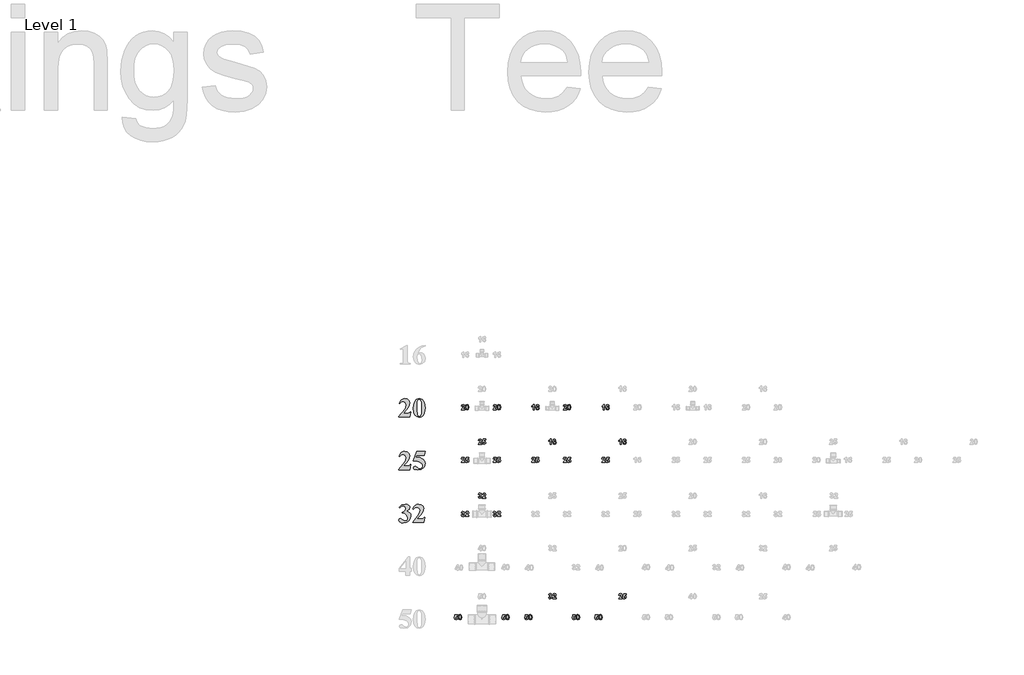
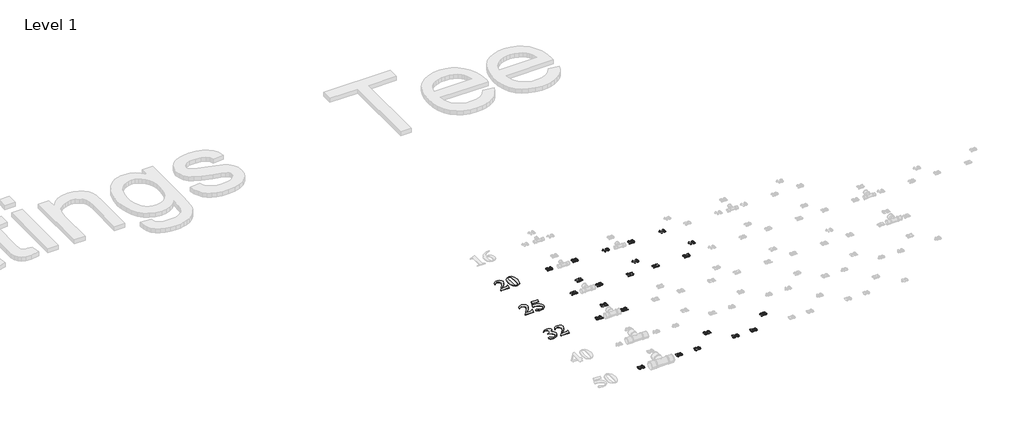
# One storey, part 27 of 57: 26 proxies.
"""IFC4 building model written with IfcOpenShell, lengths in millimetres."""

from ifc_helpers import new_model, si_unit, frame, origin, place, context, project, spatial, polyline, outline, extrude, element, save

model = new_model("IFC4")

# Units and contexts
model_context = context("Model", 3, world=origin())
ifc_project = project(units=[si_unit("LENGTHUNIT", "METRE", prefix="MILLI")], contexts=[model_context])

# Site, building, storey
site = spatial("IfcSite", under=ifc_project)
building = spatial("IfcBuilding", under=site)
storey = spatial("IfcBuildingStorey", under=building, Name="Level 1", Elevation=27.3876384)

# Proxies
placement = place(None, origin())
element("IfcBuildingElementProxy", 1, Name="100mm Arial", ObjectType="100mm Arial", at=placement, inside=storey, context=model_context, shape_type="SweptSolid", body=[
    extrude(outline(polyline([(12761.8109742, 29845.7038824), (12699.9478842, 29845.7038824), (12699.9478842, 29847.4488087), (12735.7188732, 29892.0534871), (12741.8261152, 29914.4376196), (12736.6049686, 29927.6745214), (12723.8588273, 29932.950197), (12712.8712446, 29930.0192661), (12704.6646381, 29921.2264735), (12701.8563973, 29922.235259), (12707.1150326, 29934.73602), (12714.5480097, 29943.5015482), (12723.725913, 29948.674982), (12734.2193272, 29950.3994599), (12748.7512914, 29946.8141817), (12759.0436301, 29936.9989713), (12762.7652307, 29925.3161445), (12757.2578071, 29905.1676987), (12745.2546227, 29888.6249795), (12724.3495878, 29866.6429979), (12746.3247533, 29866.6429979), (12756.8624723, 29867.2428163), (12760.8703498, 29869.2876518), (12765.0009175, 29875.3676294), (12768.0000096, 29875.3676294), (12761.8109742, 29845.7038824)])), frame((0.0, 0.0, 27.3876384), z_axis=(0.0, 0.0, 1.0), x_axis=(1.0, 0.0, 0.0)), (0.0, 0.0, 1.0), 2.0),
    extrude(outline(polyline([(12850.0115453, 29897.179208), (12845.5674362, 29868.60604), (12838.4514086, 29855.2737126), (12828.3090246, 29847.0125771), (12815.9582182, 29843.9589561), (12802.1760269, 29847.7214535), (12791.2838698, 29858.5181849), (12785.3129502, 29872.1504215), (12781.9594199, 29895.9795712), (12786.7852317, 29926.5703103), (12791.7746303, 29936.7569991), (12798.8361289, 29944.2513212), (12815.9582182, 29950.3994599), (12833.0939396, 29944.3331146), (12844.8040309, 29928.0153274), (12850.0115453, 29897.179208)]), holes=[polyline([(12827.3275035, 29897.179208), (12826.9730654, 29928.5333524), (12822.8561299, 29942.7381429), (12815.9036892, 29945.1646811), (12810.0690919, 29943.3379614), (12805.7613051, 29934.0135115), (12804.6434617, 29887.3639976), (12806.3611236, 29858.1910112), (12810.0554597, 29851.0068225), (12816.4217142, 29849.193735), (12822.8561299, 29851.6202731), (12826.9730654, 29864.6799559), (12827.3275035, 29897.179208)])]), frame((0.0, 0.0, 27.3876384), z_axis=(0.0, 0.0, 1.0), x_axis=(1.0, 0.0, 0.0)), (0.0, 0.0, 1.0), 2.0),
])
element("IfcBuildingElementProxy", 2, Name="100mm Arial", ObjectType="100mm Arial", at=placement, inside=storey, context=model_context, shape_type="SweptSolid", body=[
    extrude(outline(polyline([(12761.8109742, 29545.7013539), (12699.9478842, 29545.7013539), (12699.9478842, 29547.4462802), (12735.7188732, 29592.0509586), (12741.8261152, 29614.4350911), (12736.6049686, 29627.6719929), (12723.8588273, 29632.9476685), (12712.8712446, 29630.0167376), (12704.6646381, 29621.223945), (12701.8563973, 29622.2327305), (12707.1150326, 29634.7334915), (12714.5480097, 29643.4990197), (12723.725913, 29648.6724535), (12734.2193272, 29650.3969314), (12748.7512914, 29646.8116532), (12759.0436301, 29636.9964428), (12762.7652307, 29625.313616), (12757.2578071, 29605.1651702), (12745.2546227, 29588.622451), (12724.3495878, 29566.6404694), (12746.3247533, 29566.6404694), (12756.8624723, 29567.2402878), (12760.8703498, 29569.2851233), (12765.0009175, 29575.3651009), (12768.0000096, 29575.3651009), (12761.8109742, 29545.7013539)])), frame((0.0, 0.0, 27.3876384), z_axis=(0.0, 0.0, 1.0), x_axis=(1.0, 0.0, 0.0)), (0.0, 0.0, 1.0), 2.0),
    extrude(outline(polyline([(12801.1536091, 29648.6520051), (12850.0115453, 29648.6520051), (12843.0318402, 29627.7128896), (12798.7543355, 29627.7128896), (12795.5643921, 29618.9882582), (12819.8570378, 29615.2121286), (12837.8243258, 29605.846782), (12846.9647404, 29594.5933707), (12850.0115453, 29580.899789), (12844.3132704, 29562.1963603), (12828.5953015, 29548.5095947), (12806.6065038, 29543.9564276), (12786.7852317, 29548.7549749), (12781.9594199, 29556.4708209), (12784.4813837, 29562.3463149), (12790.3568777, 29564.8955431), (12796.4913842, 29563.5868484), (12807.1245288, 29556.6889367), (12815.3038708, 29551.9176538), (12820.729501, 29550.9361328), (12831.5807614, 29555.5029321), (12836.052135, 29566.4768826), (12832.6577081, 29578.5141476), (12822.4744273, 29588.0703454), (12807.1177127, 29594.3070937), (12788.2029843, 29596.3860098), (12781.9594199, 29596.3042164), (12801.1536091, 29648.6520051)])), frame((0.0, 0.0, 27.3876384), z_axis=(0.0, 0.0, 1.0), x_axis=(1.0, 0.0, 0.0)), (0.0, 0.0, 1.0), 2.0),
])
element("IfcBuildingElementProxy", 3, Name="100mm Arial", ObjectType="100mm Arial", at=placement, inside=storey, context=model_context, shape_type="SweptSolid", body=[
    extrude(outline(polyline([(12719.1420734, 29301.5464668), (12719.1420734, 29303.291393), (12731.5746733, 29308.1035726), (12737.5592251, 29314.8924264), (12740.0811889, 29324.1487151), (12735.3780673, 29335.2862525), (12723.667976, 29339.9348452), (12713.6073853, 29337.5014909), (12705.1826631, 29330.2014282), (12703.4377368, 29331.2102137), (12717.8470109, 29345.5922234), (12737.436535, 29350.4044029), (12747.4869015, 29348.9525697), (12755.6083065, 29344.5970701), (12760.9759997, 29338.2989768), (12762.7652307, 29331.0193624), (12758.7573531, 29321.2450487), (12746.1884309, 29312.9702811), (12762.4107926, 29301.6827891), (12766.6027053, 29294.1237139), (12768.0000096, 29284.8606091), (12765.0077337, 29269.0983355), (12756.0309058, 29255.8921062), (12742.0305988, 29246.9459509), (12723.9678852, 29243.9638991), (12712.3668518, 29245.2453294), (12704.3919934, 29249.0896201), (12699.9478842, 29258.3868055), (12702.5243769, 29265.4619363), (12708.4816644, 29268.3928672), (12713.3347406, 29267.3022883), (12722.1956944, 29260.5679634), (12736.4822784, 29254.4334569), (12746.4065467, 29258.8911983), (12750.5507467, 29270.1923224), (12748.5502159, 29280.2017922), (12742.5486238, 29289.4001439), (12732.6959247, 29296.8331209), (12719.1420734, 29301.5464668)])), frame((0.0, 0.0, 27.3876384), z_axis=(0.0, 0.0, 1.0), x_axis=(1.0, 0.0, 0.0)), (0.0, 0.0, 1.0), 2.0),
    extrude(outline(polyline([(12840.3326573, 29245.7088254), (12778.4695674, 29245.7088254), (12778.4695674, 29247.4537517), (12814.2405563, 29292.05843), (12820.3477984, 29314.4425626), (12815.1266517, 29327.6794644), (12802.3805104, 29332.95514), (12791.3929277, 29330.0242091), (12783.1863212, 29321.2314165), (12780.3780805, 29322.240202), (12785.6367158, 29334.740963), (12793.0696928, 29343.5064912), (12802.2475961, 29348.679925), (12812.7410103, 29350.4044029), (12827.2729746, 29346.8191247), (12837.5653133, 29337.0039143), (12841.2869139, 29325.3210875), (12835.7794903, 29305.1726417), (12823.7763059, 29288.6299225), (12802.871271, 29266.6479409), (12824.8464365, 29266.6479409), (12835.3841554, 29267.2477593), (12839.392033, 29269.2925948), (12843.5226007, 29275.3725724), (12846.5216927, 29275.3725724), (12840.3326573, 29245.7088254)])), frame((0.0, 0.0, 27.3876384), z_axis=(0.0, 0.0, 1.0), x_axis=(1.0, 0.0, 0.0)), (0.0, 0.0, 1.0), 2.0),
])
element("IfcBuildingElementProxy", 4, Name="30mm Arial", ObjectType="30mm Arial", at=placement, inside=storey, context=model_context, shape_type="SweptSolid", body=[
    extrude(outline(polyline([(13254.2711985, 29891.7147148), (13254.2711985, 29885.8846611), (13234.8376861, 29885.8846611), (13236.6975339, 29891.6046422), (13242.8084626, 29898.7745455), (13247.3176448, 29903.6632884), (13248.4411448, 29907.1704301), (13247.4960384, 29910.1196174), (13244.8884558, 29911.1482272), (13242.2770775, 29910.1347999), (13241.1535776, 29906.7756869), (13235.3235239, 29907.307072), (13238.4511048, 29914.3555158), (13245.0175064, 29916.4924431), (13251.8040533, 29914.0974145), (13254.2711985, 29908.1421057), (13253.5955803, 29904.2857681), (13251.4548574, 29900.4522042), (13247.8300519, 29896.6262314), (13244.5013038, 29893.3088701), (13243.4081687, 29891.7147148), (13254.2711985, 29891.7147148)])), frame((0.0, 0.0, 27.3876384), z_axis=(0.0, 0.0, 1.0), x_axis=(1.0, 0.0, 0.0)), (0.0, 0.0, 1.0), 2.0),
    extrude(outline(polyline([(13267.8746571, 29916.4924431), (13274.6687952, 29913.3344973), (13277.5914133, 29900.938042), (13274.6536128, 29888.5112217), (13267.8746571, 29885.3988233), (13260.8338045, 29888.8148704), (13258.1579009, 29900.9987717), (13261.0957014, 29913.3800446), (13267.8746571, 29916.4924431)]), holes=[polyline([(13267.8746571, 29911.1482272), (13265.9313059, 29910.5067694), (13264.6104343, 29908.2028355), (13263.9879547, 29900.938042), (13264.5421134, 29893.919963), (13265.9426927, 29891.3769057), (13267.8746571, 29890.7430392), (13269.8180084, 29891.3844969), (13271.1388799, 29893.6884309), (13271.7613596, 29900.938042), (13271.2072009, 29907.9523253), (13269.8066215, 29910.5067694), (13267.8746571, 29911.1482272)])]), frame((0.0, 0.0, 27.3876384), z_axis=(0.0, 0.0, 1.0), x_axis=(1.0, 0.0, 0.0)), (0.0, 0.0, 1.0), 2.0),
])
element("IfcBuildingElementProxy", 5, Name="30mm Arial", ObjectType="30mm Arial", at=placement, inside=storey, context=model_context, shape_type="SweptSolid", body=[
    extrude(outline(polyline([(13074.2711985, 29891.7147148), (13074.2711985, 29885.8846611), (13054.8376861, 29885.8846611), (13056.6975339, 29891.6046422), (13062.8084626, 29898.7745455), (13067.3176448, 29903.6632884), (13068.4411448, 29907.1704301), (13067.4960384, 29910.1196174), (13064.8884558, 29911.1482272), (13062.2770775, 29910.1347999), (13061.1535776, 29906.7756869), (13055.3235239, 29907.307072), (13058.4511048, 29914.3555158), (13065.0175064, 29916.4924431), (13071.8040533, 29914.0974145), (13074.2711985, 29908.1421057), (13073.5955803, 29904.2857681), (13071.4548574, 29900.4522042), (13067.8300519, 29896.6262314), (13064.5013038, 29893.3088701), (13063.4081687, 29891.7147148), (13074.2711985, 29891.7147148)])), frame((0.0, 0.0, 27.3876384), z_axis=(0.0, 0.0, 1.0), x_axis=(1.0, 0.0, 0.0)), (0.0, 0.0, 1.0), 2.0),
    extrude(outline(polyline([(13087.8746571, 29916.4924431), (13094.6687952, 29913.3344973), (13097.5914133, 29900.938042), (13094.6536128, 29888.5112217), (13087.8746571, 29885.3988233), (13080.8338045, 29888.8148704), (13078.1579009, 29900.9987717), (13081.0957014, 29913.3800446), (13087.8746571, 29916.4924431)]), holes=[polyline([(13087.8746571, 29911.1482272), (13085.9313059, 29910.5067694), (13084.6104343, 29908.2028355), (13083.9879547, 29900.938042), (13084.5421134, 29893.919963), (13085.9426927, 29891.3769057), (13087.8746571, 29890.7430392), (13089.8180084, 29891.3844969), (13091.1388799, 29893.6884309), (13091.7613596, 29900.938042), (13091.2072009, 29907.9523253), (13089.8066215, 29910.5067694), (13087.8746571, 29911.1482272)])]), frame((0.0, 0.0, 27.3876384), z_axis=(0.0, 0.0, 1.0), x_axis=(1.0, 0.0, 0.0)), (0.0, 0.0, 1.0), 2.0),
])
element("IfcBuildingElementProxy", 6, Name="30mm Arial", ObjectType="30mm Arial", at=placement, inside=storey, context=model_context, shape_type="SweptSolid", body=[
    extrude(outline(polyline([(13653.0211985, 29891.7147148), (13653.0211985, 29885.8846611), (13633.5876861, 29885.8846611), (13635.4475339, 29891.6046422), (13641.5584626, 29898.7745455), (13646.0676448, 29903.6632884), (13647.1911448, 29907.1704301), (13646.2460384, 29910.1196174), (13643.6384558, 29911.1482272), (13641.0270775, 29910.1347999), (13639.9035776, 29906.7756869), (13634.0735239, 29907.307072), (13637.2011048, 29914.3555158), (13643.7675064, 29916.4924431), (13650.5540533, 29914.0974145), (13653.0211985, 29908.1421057), (13652.3455803, 29904.2857681), (13650.2048574, 29900.4522042), (13646.5800519, 29896.6262314), (13643.2513038, 29893.3088701), (13642.1581687, 29891.7147148), (13653.0211985, 29891.7147148)])), frame((0.0, 0.0, 27.3876384), z_axis=(0.0, 0.0, 1.0), x_axis=(1.0, 0.0, 0.0)), (0.0, 0.0, 1.0), 2.0),
    extrude(outline(polyline([(13666.6246571, 29916.4924431), (13673.4187952, 29913.3344973), (13676.3414133, 29900.938042), (13673.4036128, 29888.5112217), (13666.6246571, 29885.3988233), (13659.5838045, 29888.8148704), (13656.9079009, 29900.9987717), (13659.8457014, 29913.3800446), (13666.6246571, 29916.4924431)]), holes=[polyline([(13666.6246571, 29911.1482272), (13664.6813059, 29910.5067694), (13663.3604343, 29908.2028355), (13662.7379547, 29900.938042), (13663.2921134, 29893.919963), (13664.6926927, 29891.3769057), (13666.6246571, 29890.7430392), (13668.5680084, 29891.3844969), (13669.8888799, 29893.6884309), (13670.5113596, 29900.938042), (13669.9572009, 29907.9523253), (13668.5566215, 29910.5067694), (13666.6246571, 29911.1482272)])]), frame((0.0, 0.0, 27.3876384), z_axis=(0.0, 0.0, 1.0), x_axis=(1.0, 0.0, 0.0)), (0.0, 0.0, 1.0), 2.0),
])
element("IfcBuildingElementProxy", 7, Name="30mm Arial", ObjectType="30mm Arial", at=placement, inside=storey, context=model_context, shape_type="SweptSolid", body=[
    extrude(outline(polyline([(13468.1628204, 29885.8846611), (13462.3327667, 29885.8846611), (13462.3327667, 29907.7625449), (13455.0451995, 29902.8889844), (13455.0451995, 29908.7190381), (13459.9111688, 29911.5771309), (13463.5169963, 29916.4924431), (13468.1628204, 29916.4924431), (13468.1628204, 29885.8846611)])), frame((0.0, 0.0, 27.3876384), z_axis=(0.0, 0.0, 1.0), x_axis=(1.0, 0.0, 0.0)), (0.0, 0.0, 1.0), 2.0),
    extrude(outline(polyline([(13495.8555755, 29908.3698422), (13490.0255218, 29907.7473625), (13488.9931165, 29910.3169891), (13486.8220287, 29911.1482272), (13483.8310897, 29909.5350938), (13482.2900729, 29902.7599337), (13487.6191064, 29905.3181735), (13493.779378, 29902.5853358), (13496.3414133, 29895.5330963), (13493.7224439, 29888.1734126), (13486.9890355, 29885.3988233), (13479.7470156, 29888.9818771), (13476.9079009, 29900.7254879), (13479.8722707, 29912.795521), (13487.5735591, 29916.4924431), (13493.0771905, 29914.41245), (13495.8555755, 29908.3698422)]), holes=[polyline([(13482.7379547, 29895.662147), (13483.9980965, 29892.022159), (13486.8751673, 29890.7430392), (13489.471363, 29891.790627), (13490.5113596, 29895.2294477), (13489.3916553, 29898.8314796), (13486.5942923, 29899.9739576), (13483.857659, 29898.8808225), (13482.7379547, 29895.662147)])]), frame((0.0, 0.0, 27.3876384), z_axis=(0.0, 0.0, 1.0), x_axis=(1.0, 0.0, 0.0)), (0.0, 0.0, 1.0), 2.0),
])
element("IfcBuildingElementProxy", 8, Name="30mm Arial", ObjectType="30mm Arial", at=placement, inside=storey, context=model_context, shape_type="SweptSolid", body=[
    extrude(outline(polyline([(13866.9128204, 29885.8846611), (13861.0827667, 29885.8846611), (13861.0827667, 29907.7625449), (13853.7951995, 29902.8889844), (13853.7951995, 29908.7190381), (13858.6611688, 29911.5771309), (13862.2669963, 29916.4924431), (13866.9128204, 29916.4924431), (13866.9128204, 29885.8846611)])), frame((0.0, 0.0, 27.3876384), z_axis=(0.0, 0.0, 1.0), x_axis=(1.0, 0.0, 0.0)), (0.0, 0.0, 1.0), 2.0),
    extrude(outline(polyline([(13894.6055755, 29908.3698422), (13888.7755218, 29907.7473625), (13887.7431165, 29910.3169891), (13885.5720287, 29911.1482272), (13882.5810897, 29909.5350938), (13881.0400729, 29902.7599337), (13886.3691064, 29905.3181735), (13892.529378, 29902.5853358), (13895.0914133, 29895.5330963), (13892.4724439, 29888.1734126), (13885.7390355, 29885.3988233), (13878.4970156, 29888.9818771), (13875.6579009, 29900.7254879), (13878.6222707, 29912.795521), (13886.3235591, 29916.4924431), (13891.8271905, 29914.41245), (13894.6055755, 29908.3698422)]), holes=[polyline([(13881.4879547, 29895.662147), (13882.7480965, 29892.022159), (13885.6251673, 29890.7430392), (13888.221363, 29891.790627), (13889.2613596, 29895.2294477), (13888.1416553, 29898.8314796), (13885.3442923, 29899.9739576), (13882.607659, 29898.8808225), (13881.4879547, 29895.662147)])]), frame((0.0, 0.0, 27.3876384), z_axis=(0.0, 0.0, 1.0), x_axis=(1.0, 0.0, 0.0)), (0.0, 0.0, 1.0), 2.0),
])
element("IfcBuildingElementProxy", 9, Name="30mm Arial", ObjectType="30mm Arial", at=placement, inside=storey, context=model_context, shape_type="SweptSolid", body=[
    extrude(outline(polyline([(13170.3663525, 29696.4736422), (13170.3663525, 29690.6435885), (13150.9328401, 29690.6435885), (13152.792688, 29696.3635696), (13158.9036167, 29703.5334729), (13163.4127988, 29708.4222158), (13164.5362988, 29711.9293575), (13163.5911924, 29714.8785448), (13160.9836098, 29715.9071546), (13158.3722316, 29714.8937273), (13157.2487316, 29711.5346143), (13151.4186779, 29712.0659994), (13154.5462588, 29719.1144432), (13161.1126605, 29721.2513705), (13167.8992074, 29718.8563419), (13170.3663525, 29712.9010331), (13169.6907343, 29709.0446955), (13167.5500114, 29705.2111315), (13163.9252059, 29701.3851588), (13160.5964578, 29698.0677975), (13159.5033227, 29696.4736422), (13170.3663525, 29696.4736422)])), frame((0.0, 0.0, 27.3876384), z_axis=(0.0, 0.0, 1.0), x_axis=(1.0, 0.0, 0.0)), (0.0, 0.0, 1.0), 2.0),
    extrude(outline(polyline([(13174.253055, 29699.2596184), (13179.5972709, 29699.8745068), (13181.0851492, 29696.678605), (13183.9394463, 29695.5019666), (13187.0632316, 29696.7507216), (13188.3423514, 29700.512169), (13187.1543262, 29704.0420843), (13184.0609057, 29705.2187228), (13179.7946425, 29702.7895337), (13174.7388928, 29703.5410641), (13178.1397574, 29720.7655327), (13192.7148917, 29720.7655327), (13192.7148917, 29714.9354789), (13182.8539024, 29714.9354789), (13181.677264, 29709.3711178), (13185.4349158, 29710.5629387), (13191.6293479, 29707.8035317), (13194.1724052, 29700.6412196), (13192.054456, 29694.0900004), (13184.0305409, 29690.1577507), (13177.3464754, 29692.6248958), (13174.253055, 29699.2596184)])), frame((0.0, 0.0, 27.3876384), z_axis=(0.0, 0.0, 1.0), x_axis=(1.0, 0.0, 0.0)), (0.0, 0.0, 1.0), 2.0),
])
element("IfcBuildingElementProxy", 10, Name="30mm Arial", ObjectType="30mm Arial", at=placement, inside=storey, context=model_context, shape_type="SweptSolid", body=[
    extrude(outline(polyline([(13254.2711985, 29592.5314076), (13254.2711985, 29586.7013539), (13234.8376861, 29586.7013539), (13236.6975339, 29592.421335), (13242.8084626, 29599.5912383), (13247.3176448, 29604.4799813), (13248.4411448, 29607.9871229), (13247.4960384, 29610.9363103), (13244.8884558, 29611.96492), (13242.2770775, 29610.9514927), (13241.1535776, 29607.5923797), (13235.3235239, 29608.1237648), (13238.4511048, 29615.1722087), (13245.0175064, 29617.3091359), (13251.8040533, 29614.9141073), (13254.2711985, 29608.9587986), (13253.5955803, 29605.102461), (13251.4548574, 29601.268897), (13247.8300519, 29597.4429242), (13244.5013038, 29594.1255629), (13243.4081687, 29592.5314076), (13254.2711985, 29592.5314076)])), frame((0.0, 0.0, 27.3876384), z_axis=(0.0, 0.0, 1.0), x_axis=(1.0, 0.0, 0.0)), (0.0, 0.0, 1.0), 2.0),
    extrude(outline(polyline([(13258.1579009, 29595.3173838), (13263.5021168, 29595.9322723), (13264.9899951, 29592.7363705), (13267.8442923, 29591.559732), (13270.9680776, 29592.808487), (13272.2471974, 29596.5699344), (13271.0591721, 29600.0998498), (13267.9657517, 29601.2764882), (13263.6994885, 29598.8472992), (13258.6437388, 29599.5988295), (13262.0446034, 29616.8232981), (13276.6197377, 29616.8232981), (13276.6197377, 29610.9932444), (13266.7587484, 29610.9932444), (13265.58211, 29605.4288832), (13269.3397618, 29606.6207041), (13275.5341938, 29603.8612972), (13278.0772511, 29596.6989851), (13275.9593019, 29590.1477659), (13267.9353869, 29586.2155161), (13261.2513214, 29588.6826612), (13258.1579009, 29595.3173838)])), frame((0.0, 0.0, 27.3876384), z_axis=(0.0, 0.0, 1.0), x_axis=(1.0, 0.0, 0.0)), (0.0, 0.0, 1.0), 2.0),
])
element("IfcBuildingElementProxy", 11, Name="30mm Arial", ObjectType="30mm Arial", at=placement, inside=storey, context=model_context, shape_type="SweptSolid", body=[
    extrude(outline(polyline([(13074.2711985, 29592.5314076), (13074.2711985, 29586.7013539), (13054.8376861, 29586.7013539), (13056.6975339, 29592.421335), (13062.8084626, 29599.5912383), (13067.3176448, 29604.4799813), (13068.4411448, 29607.9871229), (13067.4960384, 29610.9363103), (13064.8884558, 29611.96492), (13062.2770775, 29610.9514927), (13061.1535776, 29607.5923797), (13055.3235239, 29608.1237648), (13058.4511048, 29615.1722087), (13065.0175064, 29617.3091359), (13071.8040533, 29614.9141073), (13074.2711985, 29608.9587986), (13073.5955803, 29605.102461), (13071.4548574, 29601.268897), (13067.8300519, 29597.4429242), (13064.5013038, 29594.1255629), (13063.4081687, 29592.5314076), (13074.2711985, 29592.5314076)])), frame((0.0, 0.0, 27.3876384), z_axis=(0.0, 0.0, 1.0), x_axis=(1.0, 0.0, 0.0)), (0.0, 0.0, 1.0), 2.0),
    extrude(outline(polyline([(13078.1579009, 29595.3173838), (13083.5021168, 29595.9322723), (13084.9899951, 29592.7363705), (13087.8442923, 29591.559732), (13090.9680776, 29592.808487), (13092.2471974, 29596.5699344), (13091.0591721, 29600.0998498), (13087.9657517, 29601.2764882), (13083.6994885, 29598.8472992), (13078.6437388, 29599.5988295), (13082.0446034, 29616.8232981), (13096.6197377, 29616.8232981), (13096.6197377, 29610.9932444), (13086.7587484, 29610.9932444), (13085.58211, 29605.4288832), (13089.3397618, 29606.6207041), (13095.5341938, 29603.8612972), (13098.0772511, 29596.6989851), (13095.9593019, 29590.1477659), (13087.9353869, 29586.2155161), (13081.2513214, 29588.6826612), (13078.1579009, 29595.3173838)])), frame((0.0, 0.0, 27.3876384), z_axis=(0.0, 0.0, 1.0), x_axis=(1.0, 0.0, 0.0)), (0.0, 0.0, 1.0), 2.0),
])
element("IfcBuildingElementProxy", 12, Name="30mm Arial", ObjectType="30mm Arial", at=placement, inside=storey, context=model_context, shape_type="SweptSolid", body=[
    extrude(outline(polyline([(13564.2579744, 29690.6435885), (13558.4279207, 29690.6435885), (13558.4279207, 29712.5214723), (13551.1403535, 29707.6479118), (13551.1403535, 29713.4779655), (13556.0063228, 29716.3360583), (13559.6121503, 29721.2513705), (13564.2579744, 29721.2513705), (13564.2579744, 29690.6435885)])), frame((0.0, 0.0, 27.3876384), z_axis=(0.0, 0.0, 1.0), x_axis=(1.0, 0.0, 0.0)), (0.0, 0.0, 1.0), 2.0),
    extrude(outline(polyline([(13591.9507295, 29713.1287696), (13586.1206758, 29712.5062899), (13585.0882705, 29715.0759164), (13582.9171828, 29715.9071546), (13579.9262438, 29714.2940212), (13578.3852269, 29707.5188611), (13583.7142604, 29710.0771008), (13589.874532, 29707.3442632), (13592.4365673, 29700.2920237), (13589.8175979, 29692.93234), (13583.0841895, 29690.1577507), (13575.8421697, 29693.7408045), (13573.003055, 29705.4844153), (13575.9674247, 29717.5544484), (13583.6687131, 29721.2513705), (13589.1723446, 29719.1713773), (13591.9507295, 29713.1287696)]), holes=[polyline([(13578.8331087, 29700.4210744), (13580.0932505, 29696.7810864), (13582.9703213, 29695.5019666), (13585.5665171, 29696.5495543), (13586.6065136, 29699.9883751), (13585.4868093, 29703.590407), (13582.6894463, 29704.7328849), (13579.952813, 29703.6397499), (13578.8331087, 29700.4210744)])]), frame((0.0, 0.0, 27.3876384), z_axis=(0.0, 0.0, 1.0), x_axis=(1.0, 0.0, 0.0)), (0.0, 0.0, 1.0), 2.0),
])
element("IfcBuildingElementProxy", 13, Name="30mm Arial", ObjectType="30mm Arial", at=placement, inside=storey, context=model_context, shape_type="SweptSolid", body=[
    extrude(outline(polyline([(13653.0211985, 29592.5314076), (13653.0211985, 29586.7013539), (13633.5876861, 29586.7013539), (13635.4475339, 29592.421335), (13641.5584626, 29599.5912383), (13646.0676448, 29604.4799813), (13647.1911448, 29607.9871229), (13646.2460384, 29610.9363103), (13643.6384558, 29611.96492), (13641.0270775, 29610.9514927), (13639.9035776, 29607.5923797), (13634.0735239, 29608.1237648), (13637.2011048, 29615.1722087), (13643.7675064, 29617.3091359), (13650.5540533, 29614.9141073), (13653.0211985, 29608.9587986), (13652.3455803, 29605.102461), (13650.2048574, 29601.268897), (13646.5800519, 29597.4429242), (13643.2513038, 29594.1255629), (13642.1581687, 29592.5314076), (13653.0211985, 29592.5314076)])), frame((0.0, 0.0, 27.3876384), z_axis=(0.0, 0.0, 1.0), x_axis=(1.0, 0.0, 0.0)), (0.0, 0.0, 1.0), 2.0),
    extrude(outline(polyline([(13656.9079009, 29595.3173838), (13662.2521168, 29595.9322723), (13663.7399951, 29592.7363705), (13666.5942923, 29591.559732), (13669.7180776, 29592.808487), (13670.9971974, 29596.5699344), (13669.8091721, 29600.0998498), (13666.7157517, 29601.2764882), (13662.4494885, 29598.8472992), (13657.3937388, 29599.5988295), (13660.7946034, 29616.8232981), (13675.3697377, 29616.8232981), (13675.3697377, 29610.9932444), (13665.5087484, 29610.9932444), (13664.33211, 29605.4288832), (13668.0897618, 29606.6207041), (13674.2841938, 29603.8612972), (13676.8272511, 29596.6989851), (13674.7093019, 29590.1477659), (13666.6853869, 29586.2155161), (13660.0013214, 29588.6826612), (13656.9079009, 29595.3173838)])), frame((0.0, 0.0, 27.3876384), z_axis=(0.0, 0.0, 1.0), x_axis=(1.0, 0.0, 0.0)), (0.0, 0.0, 1.0), 2.0),
])
element("IfcBuildingElementProxy", 14, Name="30mm Arial", ObjectType="30mm Arial", at=placement, inside=storey, context=model_context, shape_type="SweptSolid", body=[
    extrude(outline(polyline([(13473.0211985, 29592.5314076), (13473.0211985, 29586.7013539), (13453.5876861, 29586.7013539), (13455.4475339, 29592.421335), (13461.5584626, 29599.5912383), (13466.0676448, 29604.4799813), (13467.1911448, 29607.9871229), (13466.2460384, 29610.9363103), (13463.6384558, 29611.96492), (13461.0270775, 29610.9514927), (13459.9035776, 29607.5923797), (13454.0735239, 29608.1237648), (13457.2011048, 29615.1722087), (13463.7675064, 29617.3091359), (13470.5540533, 29614.9141073), (13473.0211985, 29608.9587986), (13472.3455803, 29605.102461), (13470.2048574, 29601.268897), (13466.5800519, 29597.4429242), (13463.2513038, 29594.1255629), (13462.1581687, 29592.5314076), (13473.0211985, 29592.5314076)])), frame((0.0, 0.0, 27.3876384), z_axis=(0.0, 0.0, 1.0), x_axis=(1.0, 0.0, 0.0)), (0.0, 0.0, 1.0), 2.0),
    extrude(outline(polyline([(13476.9079009, 29595.3173838), (13482.2521168, 29595.9322723), (13483.7399951, 29592.7363705), (13486.5942923, 29591.559732), (13489.7180776, 29592.808487), (13490.9971974, 29596.5699344), (13489.8091721, 29600.0998498), (13486.7157517, 29601.2764882), (13482.4494885, 29598.8472992), (13477.3937388, 29599.5988295), (13480.7946034, 29616.8232981), (13495.3697377, 29616.8232981), (13495.3697377, 29610.9932444), (13485.5087484, 29610.9932444), (13484.33211, 29605.4288832), (13488.0897618, 29606.6207041), (13494.2841938, 29603.8612972), (13496.8272511, 29596.6989851), (13494.7093019, 29590.1477659), (13486.6853869, 29586.2155161), (13480.0013214, 29588.6826612), (13476.9079009, 29595.3173838)])), frame((0.0, 0.0, 27.3876384), z_axis=(0.0, 0.0, 1.0), x_axis=(1.0, 0.0, 0.0)), (0.0, 0.0, 1.0), 2.0),
])
element("IfcBuildingElementProxy", 15, Name="30mm Arial", ObjectType="30mm Arial", at=placement, inside=storey, context=model_context, shape_type="SweptSolid", body=[
    extrude(outline(polyline([(13963.0079744, 29690.6435885), (13957.1779207, 29690.6435885), (13957.1779207, 29712.5214723), (13949.8903535, 29707.6479118), (13949.8903535, 29713.4779655), (13954.7563228, 29716.3360583), (13958.3621503, 29721.2513705), (13963.0079744, 29721.2513705), (13963.0079744, 29690.6435885)])), frame((0.0, 0.0, 27.3876384), z_axis=(0.0, 0.0, 1.0), x_axis=(1.0, 0.0, 0.0)), (0.0, 0.0, 1.0), 2.0),
    extrude(outline(polyline([(13990.7007295, 29713.1287696), (13984.8706758, 29712.5062899), (13983.8382705, 29715.0759164), (13981.6671828, 29715.9071546), (13978.6762438, 29714.2940212), (13977.1352269, 29707.5188611), (13982.4642604, 29710.0771008), (13988.624532, 29707.3442632), (13991.1865673, 29700.2920237), (13988.5675979, 29692.93234), (13981.8341895, 29690.1577507), (13974.5921697, 29693.7408045), (13971.753055, 29705.4844153), (13974.7174247, 29717.5544484), (13982.4187131, 29721.2513705), (13987.9223446, 29719.1713773), (13990.7007295, 29713.1287696)]), holes=[polyline([(13977.5831087, 29700.4210744), (13978.8432505, 29696.7810864), (13981.7203213, 29695.5019666), (13984.3165171, 29696.5495543), (13985.3565136, 29699.9883751), (13984.2368093, 29703.590407), (13981.4394463, 29704.7328849), (13978.702813, 29703.6397499), (13977.5831087, 29700.4210744)])]), frame((0.0, 0.0, 27.3876384), z_axis=(0.0, 0.0, 1.0), x_axis=(1.0, 0.0, 0.0)), (0.0, 0.0, 1.0), 2.0),
])
element("IfcBuildingElementProxy", 16, Name="30mm Arial", ObjectType="30mm Arial", at=placement, inside=storey, context=model_context, shape_type="SweptSolid", body=[
    extrude(outline(polyline([(13871.7711985, 29592.5314076), (13871.7711985, 29586.7013539), (13852.3376861, 29586.7013539), (13854.1975339, 29592.421335), (13860.3084626, 29599.5912383), (13864.8176448, 29604.4799813), (13865.9411448, 29607.9871229), (13864.9960384, 29610.9363103), (13862.3884558, 29611.96492), (13859.7770775, 29610.9514927), (13858.6535776, 29607.5923797), (13852.8235239, 29608.1237648), (13855.9511048, 29615.1722087), (13862.5175064, 29617.3091359), (13869.3040533, 29614.9141073), (13871.7711985, 29608.9587986), (13871.0955803, 29605.102461), (13868.9548574, 29601.268897), (13865.3300519, 29597.4429242), (13862.0013038, 29594.1255629), (13860.9081687, 29592.5314076), (13871.7711985, 29592.5314076)])), frame((0.0, 0.0, 27.3876384), z_axis=(0.0, 0.0, 1.0), x_axis=(1.0, 0.0, 0.0)), (0.0, 0.0, 1.0), 2.0),
    extrude(outline(polyline([(13875.6579009, 29595.3173838), (13881.0021168, 29595.9322723), (13882.4899951, 29592.7363705), (13885.3442923, 29591.559732), (13888.4680776, 29592.808487), (13889.7471974, 29596.5699344), (13888.5591721, 29600.0998498), (13885.4657517, 29601.2764882), (13881.1994885, 29598.8472992), (13876.1437388, 29599.5988295), (13879.5446034, 29616.8232981), (13894.1197377, 29616.8232981), (13894.1197377, 29610.9932444), (13884.2587484, 29610.9932444), (13883.08211, 29605.4288832), (13886.8397618, 29606.6207041), (13893.0341938, 29603.8612972), (13895.5772511, 29596.6989851), (13893.4593019, 29590.1477659), (13885.4353869, 29586.2155161), (13878.7513214, 29588.6826612), (13875.6579009, 29595.3173838)])), frame((0.0, 0.0, 27.3876384), z_axis=(0.0, 0.0, 1.0), x_axis=(1.0, 0.0, 0.0)), (0.0, 0.0, 1.0), 2.0),
])
element("IfcBuildingElementProxy", 17, Name="30mm Arial", ObjectType="30mm Arial", at=placement, inside=storey, context=model_context, shape_type="SweptSolid", body=[
    extrude(outline(polyline([(13150.9328401, 29392.2063601), (13156.7628938, 29392.8819783), (13158.0761742, 29389.632938), (13160.6647787, 29388.5094381), (13163.4203901, 29389.7961491), (13164.5362988, 29393.2615391), (13163.5152803, 29396.5333531), (13161.0215659, 29397.7403564), (13158.7062451, 29397.3076571), (13159.2148565, 29402.1128967), (13162.0881317, 29403.0693899), (13163.0787853, 29405.7718627), (13162.3386418, 29408.0606143), (13160.3687213, 29408.9146261), (13158.2925238, 29407.9239724), (13157.2487316, 29405.0279236), (13151.4186779, 29405.9009134), (13153.0242201, 29410.5353506), (13156.0227503, 29413.2643927), (13160.3307652, 29414.258842), (13166.8743932, 29411.5032306), (13168.9088391, 29406.4019336), (13164.54389, 29399.9721739), (13168.7797884, 29397.4708683), (13170.3663525, 29392.7757013), (13167.553807, 29385.9777676), (13160.5509105, 29383.1652222), (13153.9655308, 29385.6665277), (13150.9328401, 29392.2063601)])), frame((0.0, 0.0, 27.3876384), z_axis=(0.0, 0.0, 1.0), x_axis=(1.0, 0.0, 0.0)), (0.0, 0.0, 1.0), 2.0),
    extrude(outline(polyline([(13193.6865673, 29389.4811137), (13193.6865673, 29383.65106), (13174.253055, 29383.65106), (13176.1129028, 29389.371041), (13182.2238315, 29396.5409443), (13186.7330137, 29401.4296873), (13187.8565136, 29404.936829), (13186.9114073, 29407.8860163), (13184.3038246, 29408.9146261), (13181.6924464, 29407.9011987), (13180.5689465, 29404.5420858), (13174.7388928, 29405.0734709), (13177.8664737, 29412.1219147), (13184.4328753, 29414.258842), (13191.2194222, 29411.8638134), (13193.6865673, 29405.9085046), (13193.0109491, 29402.052167), (13190.8702263, 29398.218603), (13187.2454208, 29394.3926303), (13183.9166726, 29391.075269), (13182.8235376, 29389.4811137), (13193.6865673, 29389.4811137)])), frame((0.0, 0.0, 27.3876384), z_axis=(0.0, 0.0, 1.0), x_axis=(1.0, 0.0, 0.0)), (0.0, 0.0, 1.0), 2.0),
])
element("IfcBuildingElementProxy", 18, Name="30mm Arial", ObjectType="30mm Arial", at=placement, inside=storey, context=model_context, shape_type="SweptSolid", body=[
    extrude(outline(polyline([(13234.8376861, 29288.2641256), (13240.6677398, 29288.9397438), (13241.9810201, 29285.6907034), (13244.5696247, 29284.5672035), (13247.325236, 29285.8539146), (13248.4411448, 29289.3193046), (13247.4201262, 29292.5911186), (13244.9264118, 29293.7981219), (13242.611091, 29293.3654226), (13243.1197025, 29298.1706622), (13245.9929777, 29299.1271554), (13246.9836313, 29301.8296282), (13246.2434878, 29304.1183797), (13244.2735673, 29304.9723915), (13242.1973698, 29303.9817378), (13241.1535776, 29301.085689), (13235.3235239, 29301.9586788), (13236.929066, 29306.5931161), (13239.9275963, 29309.3221581), (13244.2356112, 29310.3166074), (13250.7792392, 29307.5609961), (13252.813685, 29302.4596991), (13248.448736, 29296.0299393), (13252.6846344, 29293.5286337), (13254.2711985, 29288.8334668), (13251.458653, 29282.035533), (13244.4557565, 29279.2229876), (13237.8703768, 29281.7242932), (13234.8376861, 29288.2641256)])), frame((0.0, 0.0, 27.3876384), z_axis=(0.0, 0.0, 1.0), x_axis=(1.0, 0.0, 0.0)), (0.0, 0.0, 1.0), 2.0),
    extrude(outline(polyline([(13277.5914133, 29285.5388791), (13277.5914133, 29279.7088254), (13258.1579009, 29279.7088254), (13260.0177488, 29285.4288065), (13266.1286775, 29292.5987098), (13270.6378597, 29297.4874528), (13271.7613596, 29300.9945944), (13270.8162532, 29303.9437818), (13268.2086706, 29304.9723915), (13265.5972924, 29303.9589642), (13264.4737925, 29300.5998512), (13258.6437388, 29301.1312363), (13261.7713196, 29308.1796802), (13268.3377213, 29310.3166074), (13275.1242682, 29307.9215788), (13277.5914133, 29301.9662701), (13276.9157951, 29298.1099324), (13274.7750723, 29294.2763685), (13271.1502667, 29290.4503957), (13267.8215186, 29287.1330344), (13266.7283835, 29285.5388791), (13277.5914133, 29285.5388791)])), frame((0.0, 0.0, 27.3876384), z_axis=(0.0, 0.0, 1.0), x_axis=(1.0, 0.0, 0.0)), (0.0, 0.0, 1.0), 2.0),
])
element("IfcBuildingElementProxy", 19, Name="30mm Arial", ObjectType="30mm Arial", at=placement, inside=storey, context=model_context, shape_type="SweptSolid", body=[
    extrude(outline(polyline([(13054.8376861, 29288.2641256), (13060.6677398, 29288.9397438), (13061.9810201, 29285.6907034), (13064.5696247, 29284.5672035), (13067.325236, 29285.8539146), (13068.4411448, 29289.3193046), (13067.4201262, 29292.5911186), (13064.9264118, 29293.7981219), (13062.611091, 29293.3654226), (13063.1197025, 29298.1706622), (13065.9929777, 29299.1271554), (13066.9836313, 29301.8296282), (13066.2434878, 29304.1183797), (13064.2735673, 29304.9723915), (13062.1973698, 29303.9817378), (13061.1535776, 29301.085689), (13055.3235239, 29301.9586788), (13056.929066, 29306.5931161), (13059.9275963, 29309.3221581), (13064.2356112, 29310.3166074), (13070.7792392, 29307.5609961), (13072.813685, 29302.4596991), (13068.448736, 29296.0299393), (13072.6846344, 29293.5286337), (13074.2711985, 29288.8334668), (13071.458653, 29282.035533), (13064.4557565, 29279.2229876), (13057.8703768, 29281.7242932), (13054.8376861, 29288.2641256)])), frame((0.0, 0.0, 27.3876384), z_axis=(0.0, 0.0, 1.0), x_axis=(1.0, 0.0, 0.0)), (0.0, 0.0, 1.0), 2.0),
    extrude(outline(polyline([(13097.5914133, 29285.5388791), (13097.5914133, 29279.7088254), (13078.1579009, 29279.7088254), (13080.0177488, 29285.4288065), (13086.1286775, 29292.5987098), (13090.6378597, 29297.4874528), (13091.7613596, 29300.9945944), (13090.8162532, 29303.9437818), (13088.2086706, 29304.9723915), (13085.5972924, 29303.9589642), (13084.4737925, 29300.5998512), (13078.6437388, 29301.1312363), (13081.7713196, 29308.1796802), (13088.3377213, 29310.3166074), (13095.1242682, 29307.9215788), (13097.5914133, 29301.9662701), (13096.9157951, 29298.1099324), (13094.7750723, 29294.2763685), (13091.1502667, 29290.4503957), (13087.8215186, 29287.1330344), (13086.7283835, 29285.5388791), (13097.5914133, 29285.5388791)])), frame((0.0, 0.0, 27.3876384), z_axis=(0.0, 0.0, 1.0), x_axis=(1.0, 0.0, 0.0)), (0.0, 0.0, 1.0), 2.0),
])
element("IfcBuildingElementProxy", 20, Name="30mm Arial", ObjectType="30mm Arial", at=placement, inside=storey, context=model_context, shape_type="SweptSolid", body=[
    extrude(outline(polyline([(13284.8376861, 28701.4812537), (13290.181902, 28702.0961422), (13291.6697803, 28698.9002404), (13294.5240774, 28697.7236019), (13297.6478627, 28698.9723569), (13298.9269826, 28702.7338043), (13297.7389573, 28706.2637197), (13294.6455369, 28707.4403581), (13290.3792736, 28705.0111691), (13285.3235239, 28705.7626994), (13288.7243886, 28722.987168), (13303.2995228, 28722.987168), (13303.2995228, 28717.1571143), (13293.4385336, 28717.1571143), (13292.2618951, 28711.5927531), (13296.0195469, 28712.784574), (13302.213979, 28710.0251671), (13304.7570363, 28702.862855), (13302.6390871, 28696.3116358), (13294.615172, 28692.379386), (13287.9311065, 28694.8465311), (13284.8376861, 28701.4812537)])), frame((0.0, 0.0, 27.3876384), z_axis=(0.0, 0.0, 1.0), x_axis=(1.0, 0.0, 0.0)), (0.0, 0.0, 1.0), 2.0),
    extrude(outline(polyline([(13317.8746571, 28723.4730058), (13324.6687952, 28720.3150601), (13327.5914133, 28707.9186047), (13324.6536128, 28695.4917845), (13317.8746571, 28692.379386), (13310.8338045, 28695.7954331), (13308.1579009, 28707.9793344), (13311.0957014, 28720.3606074), (13317.8746571, 28723.4730058)]), holes=[polyline([(13317.8746571, 28718.1287899), (13315.9313059, 28717.4873322), (13314.6104343, 28715.1833982), (13313.9879547, 28707.9186047), (13314.5421134, 28700.9005257), (13315.9426927, 28698.3574684), (13317.8746571, 28697.7236019), (13319.8180084, 28698.3650596), (13321.1388799, 28700.6689936), (13321.7613596, 28707.9186047), (13321.2072009, 28714.9328881), (13319.8066215, 28717.4873322), (13317.8746571, 28718.1287899)])]), frame((0.0, 0.0, 27.3876384), z_axis=(0.0, 0.0, 1.0), x_axis=(1.0, 0.0, 0.0)), (0.0, 0.0, 1.0), 2.0),
])
element("IfcBuildingElementProxy", 21, Name="30mm Arial", ObjectType="30mm Arial", at=placement, inside=storey, context=model_context, shape_type="SweptSolid", body=[
    extrude(outline(polyline([(13014.8376861, 28701.4812537), (13020.181902, 28702.0961422), (13021.6697803, 28698.9002404), (13024.5240774, 28697.7236019), (13027.6478627, 28698.9723569), (13028.9269826, 28702.7338043), (13027.7389573, 28706.2637197), (13024.6455369, 28707.4403581), (13020.3792736, 28705.0111691), (13015.3235239, 28705.7626994), (13018.7243886, 28722.987168), (13033.2995228, 28722.987168), (13033.2995228, 28717.1571143), (13023.4385336, 28717.1571143), (13022.2618951, 28711.5927531), (13026.0195469, 28712.784574), (13032.213979, 28710.0251671), (13034.7570363, 28702.862855), (13032.6390871, 28696.3116358), (13024.615172, 28692.379386), (13017.9311065, 28694.8465311), (13014.8376861, 28701.4812537)])), frame((0.0, 0.0, 27.3876384), z_axis=(0.0, 0.0, 1.0), x_axis=(1.0, 0.0, 0.0)), (0.0, 0.0, 1.0), 2.0),
    extrude(outline(polyline([(13047.8746571, 28723.4730058), (13054.6687952, 28720.3150601), (13057.5914133, 28707.9186047), (13054.6536128, 28695.4917845), (13047.8746571, 28692.379386), (13040.8338045, 28695.7954331), (13038.1579009, 28707.9793344), (13041.0957014, 28720.3606074), (13047.8746571, 28723.4730058)]), holes=[polyline([(13047.8746571, 28718.1287899), (13045.9313059, 28717.4873322), (13044.6104343, 28715.1833982), (13043.9879547, 28707.9186047), (13044.5421134, 28700.9005257), (13045.9426927, 28698.3574684), (13047.8746571, 28697.7236019), (13049.8180084, 28698.3650596), (13051.1388799, 28700.6689936), (13051.7613596, 28707.9186047), (13051.2072009, 28714.9328881), (13049.8066215, 28717.4873322), (13047.8746571, 28718.1287899)])]), frame((0.0, 0.0, 27.3876384), z_axis=(0.0, 0.0, 1.0), x_axis=(1.0, 0.0, 0.0)), (0.0, 0.0, 1.0), 2.0),
])
element("IfcBuildingElementProxy", 22, Name="30mm Arial", ObjectType="30mm Arial", at=placement, inside=storey, context=model_context, shape_type="SweptSolid", body=[
    extrude(outline(polyline([(13549.6828401, 28820.3627585), (13555.5128938, 28821.0383767), (13556.8261742, 28817.7893364), (13559.4147787, 28816.6658365), (13562.1703901, 28817.9525475), (13563.2862988, 28821.4179375), (13562.2652803, 28824.6897515), (13559.7715659, 28825.8967548), (13557.4562451, 28825.4640555), (13557.9648565, 28830.2692951), (13560.8381317, 28831.2257883), (13561.8287853, 28833.9282611), (13561.0886418, 28836.2170127), (13559.1187213, 28837.0710245), (13557.0425238, 28836.0803708), (13555.9987316, 28833.184322), (13550.1686779, 28834.0573118), (13551.7742201, 28838.691749), (13554.7727503, 28841.4207911), (13559.0807652, 28842.4152404), (13565.6243932, 28839.659629), (13567.6588391, 28834.558332), (13563.29389, 28828.1285723), (13567.5297884, 28825.6272667), (13569.1163525, 28820.9320997), (13566.303807, 28814.134166), (13559.3009105, 28811.3216206), (13552.7155308, 28813.8229262), (13549.6828401, 28820.3627585)])), frame((0.0, 0.0, 27.3876384), z_axis=(0.0, 0.0, 1.0), x_axis=(1.0, 0.0, 0.0)), (0.0, 0.0, 1.0), 2.0),
    extrude(outline(polyline([(13592.4365673, 28817.6375121), (13592.4365673, 28811.8074584), (13573.003055, 28811.8074584), (13574.8629028, 28817.5274395), (13580.9738315, 28824.6973428), (13585.4830137, 28829.5860857), (13586.6065136, 28833.0932274), (13585.6614073, 28836.0424147), (13583.0538246, 28837.0710245), (13580.4424464, 28836.0575972), (13579.3189465, 28832.6984842), (13573.4888928, 28833.2298693), (13576.6164737, 28840.2783131), (13583.1828753, 28842.4152404), (13589.9694222, 28840.0202118), (13592.4365673, 28834.064903), (13591.7609491, 28830.2085654), (13589.6202263, 28826.3750014), (13585.9954208, 28822.5490287), (13582.6666726, 28819.2316674), (13581.5735376, 28817.6375121), (13592.4365673, 28817.6375121)])), frame((0.0, 0.0, 27.3876384), z_axis=(0.0, 0.0, 1.0), x_axis=(1.0, 0.0, 0.0)), (0.0, 0.0, 1.0), 2.0),
])
element("IfcBuildingElementProxy", 23, Name="30mm Arial", ObjectType="30mm Arial", at=placement, inside=storey, context=model_context, shape_type="SweptSolid", body=[
    extrude(outline(polyline([(13683.5876861, 28701.4812537), (13688.931902, 28702.0961422), (13690.4197803, 28698.9002404), (13693.2740774, 28697.7236019), (13696.3978627, 28698.9723569), (13697.6769826, 28702.7338043), (13696.4889573, 28706.2637197), (13693.3955369, 28707.4403581), (13689.1292736, 28705.0111691), (13684.0735239, 28705.7626994), (13687.4743886, 28722.987168), (13702.0495228, 28722.987168), (13702.0495228, 28717.1571143), (13692.1885336, 28717.1571143), (13691.0118951, 28711.5927531), (13694.7695469, 28712.784574), (13700.963979, 28710.0251671), (13703.5070363, 28702.862855), (13701.3890871, 28696.3116358), (13693.365172, 28692.379386), (13686.6811065, 28694.8465311), (13683.5876861, 28701.4812537)])), frame((0.0, 0.0, 27.3876384), z_axis=(0.0, 0.0, 1.0), x_axis=(1.0, 0.0, 0.0)), (0.0, 0.0, 1.0), 2.0),
    extrude(outline(polyline([(13716.6246571, 28723.4730058), (13723.4187952, 28720.3150601), (13726.3414133, 28707.9186047), (13723.4036128, 28695.4917845), (13716.6246571, 28692.379386), (13709.5838045, 28695.7954331), (13706.9079009, 28707.9793344), (13709.8457014, 28720.3606074), (13716.6246571, 28723.4730058)]), holes=[polyline([(13716.6246571, 28718.1287899), (13714.6813059, 28717.4873322), (13713.3604343, 28715.1833982), (13712.7379547, 28707.9186047), (13713.2921134, 28700.9005257), (13714.6926927, 28698.3574684), (13716.6246571, 28697.7236019), (13718.5680084, 28698.3650596), (13719.8888799, 28700.6689936), (13720.5113596, 28707.9186047), (13719.9572009, 28714.9328881), (13718.5566215, 28717.4873322), (13716.6246571, 28718.1287899)])]), frame((0.0, 0.0, 27.3876384), z_axis=(0.0, 0.0, 1.0), x_axis=(1.0, 0.0, 0.0)), (0.0, 0.0, 1.0), 2.0),
])
element("IfcBuildingElementProxy", 24, Name="30mm Arial", ObjectType="30mm Arial", at=placement, inside=storey, context=model_context, shape_type="SweptSolid", body=[
    extrude(outline(polyline([(13413.5876861, 28701.4812537), (13418.931902, 28702.0961422), (13420.4197803, 28698.9002404), (13423.2740774, 28697.7236019), (13426.3978627, 28698.9723569), (13427.6769826, 28702.7338043), (13426.4889573, 28706.2637197), (13423.3955369, 28707.4403581), (13419.1292736, 28705.0111691), (13414.0735239, 28705.7626994), (13417.4743886, 28722.987168), (13432.0495228, 28722.987168), (13432.0495228, 28717.1571143), (13422.1885336, 28717.1571143), (13421.0118951, 28711.5927531), (13424.7695469, 28712.784574), (13430.963979, 28710.0251671), (13433.5070363, 28702.862855), (13431.3890871, 28696.3116358), (13423.365172, 28692.379386), (13416.6811065, 28694.8465311), (13413.5876861, 28701.4812537)])), frame((0.0, 0.0, 27.3876384), z_axis=(0.0, 0.0, 1.0), x_axis=(1.0, 0.0, 0.0)), (0.0, 0.0, 1.0), 2.0),
    extrude(outline(polyline([(13446.6246571, 28723.4730058), (13453.4187952, 28720.3150601), (13456.3414133, 28707.9186047), (13453.4036128, 28695.4917845), (13446.6246571, 28692.379386), (13439.5838045, 28695.7954331), (13436.9079009, 28707.9793344), (13439.8457014, 28720.3606074), (13446.6246571, 28723.4730058)]), holes=[polyline([(13446.6246571, 28718.1287899), (13444.6813059, 28717.4873322), (13443.3604343, 28715.1833982), (13442.7379547, 28707.9186047), (13443.2921134, 28700.9005257), (13444.6926927, 28698.3574684), (13446.6246571, 28697.7236019), (13448.5680084, 28698.3650596), (13449.8888799, 28700.6689936), (13450.5113596, 28707.9186047), (13449.9572009, 28714.9328881), (13448.5566215, 28717.4873322), (13446.6246571, 28718.1287899)])]), frame((0.0, 0.0, 27.3876384), z_axis=(0.0, 0.0, 1.0), x_axis=(1.0, 0.0, 0.0)), (0.0, 0.0, 1.0), 2.0),
])
element("IfcBuildingElementProxy", 25, Name="30mm Arial", ObjectType="30mm Arial", at=placement, inside=storey, context=model_context, shape_type="SweptSolid", body=[
    extrude(outline(polyline([(13967.8663525, 28817.6375121), (13967.8663525, 28811.8074584), (13948.4328401, 28811.8074584), (13950.292688, 28817.5274395), (13956.4036167, 28824.6973428), (13960.9127988, 28829.5860857), (13962.0362988, 28833.0932274), (13961.0911924, 28836.0424147), (13958.4836098, 28837.0710245), (13955.8722316, 28836.0575972), (13954.7487316, 28832.6984842), (13948.9186779, 28833.2298693), (13952.0462588, 28840.2783131), (13958.6126605, 28842.4152404), (13965.3992074, 28840.0202118), (13967.8663525, 28834.064903), (13967.1907343, 28830.2085654), (13965.0500114, 28826.3750014), (13961.4252059, 28822.5490287), (13958.0964578, 28819.2316674), (13957.0033227, 28817.6375121), (13967.8663525, 28817.6375121)])), frame((0.0, 0.0, 27.3876384), z_axis=(0.0, 0.0, 1.0), x_axis=(1.0, 0.0, 0.0)), (0.0, 0.0, 1.0), 2.0),
    extrude(outline(polyline([(13971.753055, 28820.4234883), (13977.0972709, 28821.0383767), (13978.5851492, 28817.8424749), (13981.4394463, 28816.6658365), (13984.5632316, 28817.9145915), (13985.8423514, 28821.6760389), (13984.6543262, 28825.2059542), (13981.5609057, 28826.3825927), (13977.2946425, 28823.9534036), (13972.2388928, 28824.704934), (13975.6397574, 28841.9294026), (13990.2148917, 28841.9294026), (13990.2148917, 28836.0993488), (13980.3539024, 28836.0993488), (13979.177264, 28830.5349877), (13982.9349158, 28831.7268086), (13989.1293479, 28828.9674016), (13991.6724052, 28821.8050895), (13989.554456, 28815.2538703), (13981.5305409, 28811.3216206), (13974.8464754, 28813.7887657), (13971.753055, 28820.4234883)])), frame((0.0, 0.0, 27.3876384), z_axis=(0.0, 0.0, 1.0), x_axis=(1.0, 0.0, 0.0)), (0.0, 0.0, 1.0), 2.0),
])
element("IfcBuildingElementProxy", 26, Name="30mm Arial", ObjectType="30mm Arial", at=placement, inside=storey, context=model_context, shape_type="SweptSolid", body=[
    extrude(outline(polyline([(13812.3376861, 28701.4812537), (13817.681902, 28702.0961422), (13819.1697803, 28698.9002404), (13822.0240774, 28697.7236019), (13825.1478627, 28698.9723569), (13826.4269826, 28702.7338043), (13825.2389573, 28706.2637197), (13822.1455369, 28707.4403581), (13817.8792736, 28705.0111691), (13812.8235239, 28705.7626994), (13816.2243886, 28722.987168), (13830.7995228, 28722.987168), (13830.7995228, 28717.1571143), (13820.9385336, 28717.1571143), (13819.7618951, 28711.5927531), (13823.5195469, 28712.784574), (13829.713979, 28710.0251671), (13832.2570363, 28702.862855), (13830.1390871, 28696.3116358), (13822.115172, 28692.379386), (13815.4311065, 28694.8465311), (13812.3376861, 28701.4812537)])), frame((0.0, 0.0, 27.3876384), z_axis=(0.0, 0.0, 1.0), x_axis=(1.0, 0.0, 0.0)), (0.0, 0.0, 1.0), 2.0),
    extrude(outline(polyline([(13845.3746571, 28723.4730058), (13852.1687952, 28720.3150601), (13855.0914133, 28707.9186047), (13852.1536128, 28695.4917845), (13845.3746571, 28692.379386), (13838.3338045, 28695.7954331), (13835.6579009, 28707.9793344), (13838.5957014, 28720.3606074), (13845.3746571, 28723.4730058)]), holes=[polyline([(13845.3746571, 28718.1287899), (13843.4313059, 28717.4873322), (13842.1104343, 28715.1833982), (13841.4879547, 28707.9186047), (13842.0421134, 28700.9005257), (13843.4426927, 28698.3574684), (13845.3746571, 28697.7236019), (13847.3180084, 28698.3650596), (13848.6388799, 28700.6689936), (13849.2613596, 28707.9186047), (13848.7072009, 28714.9328881), (13847.3066215, 28717.4873322), (13845.3746571, 28718.1287899)])]), frame((0.0, 0.0, 27.3876384), z_axis=(0.0, 0.0, 1.0), x_axis=(1.0, 0.0, 0.0)), (0.0, 0.0, 1.0), 2.0),
])

save(model, "model.ifc")
